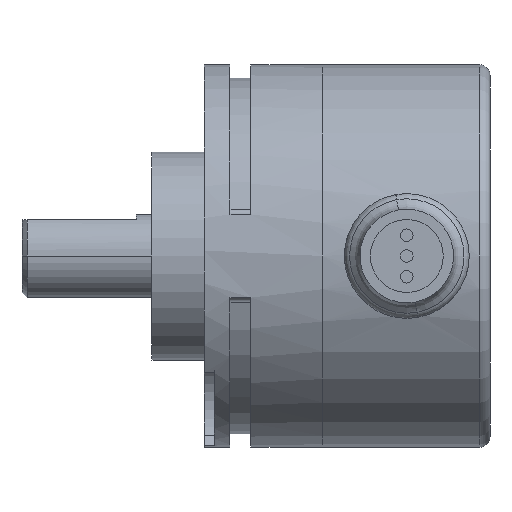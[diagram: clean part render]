
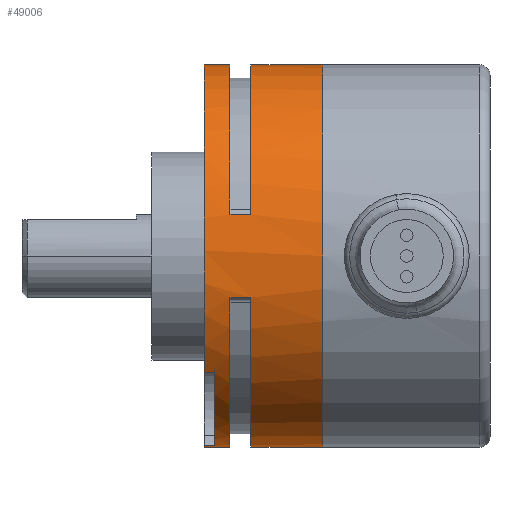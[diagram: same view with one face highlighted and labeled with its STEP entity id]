
A CAD part, front view. The second image highlights one B-rep face of the part: STEP entity #49006.
In plain terms, the highlighted cylindrical face has radius 18.4 mm (diameter 36.8 mm), a partial arc.
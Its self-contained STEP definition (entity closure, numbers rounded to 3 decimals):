
#2608 = CARTESIAN_POINT ( 'NONE',  ( 1.355, -2.838, -18.4 ) ) ;
#2611 = CARTESIAN_POINT ( 'NONE',  ( -7.545, -2.838, 18.4 ) ) ;
#2612 = DIRECTION ( 'NONE',  ( -1., 0., 0. ) ) ;
#2613 = VECTOR ( 'NONE', #2612, 1000. ) ;
#2614 = CARTESIAN_POINT ( 'NONE',  ( -15.045, -2.838, 18.4 ) ) ;
#2615 = LINE ( 'NONE', #2614, #2613 ) ;
#2616 = CARTESIAN_POINT ( 'NONE',  ( 1.355, -2.838, 18.4 ) ) ;
#2673 = CARTESIAN_POINT ( 'NONE',  ( -5.545, -2.838, -18.4 ) ) ;
#2674 = CARTESIAN_POINT ( 'NONE',  ( -7.545, -2.838, -18.4 ) ) ;
#2680 = CARTESIAN_POINT ( 'NONE',  ( -5.545, -2.838, 18.4 ) ) ;
#3988 = DIRECTION ( 'NONE',  ( -1., 0., 0. ) ) ;
#3989 = CARTESIAN_POINT ( 'NONE',  ( -15.045, -2.838, 18.4 ) ) ;
#3993 = VECTOR ( 'NONE', #3988, 1000. ) ;
#3995 = LINE ( 'NONE', #3989, #3993 ) ;
#17676 = CARTESIAN_POINT ( 'NONE',  ( -9.045, -17.408, -11.237 ) ) ;
#17677 = DIRECTION ( 'NONE',  ( -1., 0., 0. ) ) ;
#17678 = VECTOR ( 'NONE', #17677, 1000. ) ;
#17679 = CARTESIAN_POINT ( 'NONE',  ( -9.045, -17.408, -11.237 ) ) ;
#17680 = LINE ( 'NONE', #17679, #17678 ) ;
#17699 = DIRECTION ( 'NONE',  ( -1., 0., 0. ) ) ;
#17700 = VECTOR ( 'NONE', #17699, 1000. ) ;
#17701 = CARTESIAN_POINT ( 'NONE',  ( -9.045, -5.284, -18.237 ) ) ;
#17702 = LINE ( 'NONE', #17701, #17700 ) ;
#17751 = FACE_OUTER_BOUND ( 'NONE', #49009, .T. ) ;
#17781 = DIRECTION ( 'NONE',  ( 0., 0., 1. ) ) ;
#17782 = DIRECTION ( 'NONE',  ( -1., 0., 0. ) ) ;
#17783 = CARTESIAN_POINT ( 'NONE',  ( 1.355, -2.838, 0. ) ) ;
#17784 = AXIS2_PLACEMENT_3D ( 'NONE', #17783, #17782, #17781 ) ;
#17786 = DIRECTION ( 'NONE',  ( 0., 0., 1. ) ) ;
#17787 = DIRECTION ( 'NONE',  ( -1., 0., 0. ) ) ;
#17788 = AXIS2_PLACEMENT_3D ( 'NONE', #17791, #17787, #17786 ) ;
#17789 = CYLINDRICAL_SURFACE ( 'NONE', #17788, 18.4 ) ;
#17790 = CIRCLE ( 'NONE', #17784, 18.4 ) ;
#17791 = CARTESIAN_POINT ( 'NONE',  ( -15.045, -2.838, 0. ) ) ;
#17796 = CARTESIAN_POINT ( 'NONE',  ( -9.045, -2.838, 0. ) ) ;
#17805 = CARTESIAN_POINT ( 'NONE',  ( -10.045, -5.284, -18.237 ) ) ;
#17806 = DIRECTION ( 'NONE',  ( 0., 0., 1. ) ) ;
#17807 = DIRECTION ( 'NONE',  ( -1., 0., 0. ) ) ;
#17808 = CARTESIAN_POINT ( 'NONE',  ( -10.045, -2.838, 0. ) ) ;
#17809 = AXIS2_PLACEMENT_3D ( 'NONE', #17808, #17807, #17806 ) ;
#17810 = CIRCLE ( 'NONE', #17809, 18.4 ) ;
#17816 = CARTESIAN_POINT ( 'NONE',  ( -9.045, -5.284, -18.237 ) ) ;
#17817 = DIRECTION ( 'NONE',  ( 0., 0., 1. ) ) ;
#17818 = DIRECTION ( 'NONE',  ( -1., 0., 0. ) ) ;
#17819 = AXIS2_PLACEMENT_3D ( 'NONE', #17796, #17818, #17817 ) ;
#17820 = CIRCLE ( 'NONE', #17819, 18.4 ) ;
#18221 = CIRCLE ( 'NONE', #18282, 18.4 ) ;
#18222 = CARTESIAN_POINT ( 'NONE',  ( -10.045, -17.408, -11.237 ) ) ;
#18223 = DIRECTION ( 'NONE',  ( 0., 0., 1. ) ) ;
#18224 = DIRECTION ( 'NONE',  ( -1., 0., 0. ) ) ;
#18225 = AXIS2_PLACEMENT_3D ( 'NONE', #18233, #18224, #18223 ) ;
#18226 = CIRCLE ( 'NONE', #18225, 18.4 ) ;
#18233 = CARTESIAN_POINT ( 'NONE',  ( -10.045, -2.838, 0. ) ) ;
#18263 = DIRECTION ( 'NONE',  ( 0., 0., -1. ) ) ;
#18264 = DIRECTION ( 'NONE',  ( 1., 0., 0. ) ) ;
#18265 = CARTESIAN_POINT ( 'NONE',  ( -5.545, -2.838, 0. ) ) ;
#18266 = AXIS2_PLACEMENT_3D ( 'NONE', #18265, #18264, #18263 ) ;
#18267 = CIRCLE ( 'NONE', #18266, 18.4 ) ;
#18269 = CARTESIAN_POINT ( 'NONE',  ( -5.545, -20.798, -4. ) ) ;
#18274 = DIRECTION ( 'NONE',  ( -1., 0., 0. ) ) ;
#18275 = VECTOR ( 'NONE', #18274, 1000. ) ;
#18276 = CARTESIAN_POINT ( 'NONE',  ( -5.545, -20.798, -4. ) ) ;
#18277 = LINE ( 'NONE', #18276, #18275 ) ;
#18278 = CARTESIAN_POINT ( 'NONE',  ( -7.545, -20.798, -4. ) ) ;
#18279 = DIRECTION ( 'NONE',  ( 0., 0., -1. ) ) ;
#18280 = DIRECTION ( 'NONE',  ( 1., 0., 0. ) ) ;
#18281 = CARTESIAN_POINT ( 'NONE',  ( -7.545, -2.838, 0. ) ) ;
#18282 = AXIS2_PLACEMENT_3D ( 'NONE', #18281, #18280, #18279 ) ;
#26216 = CARTESIAN_POINT ( 'NONE',  ( -15.045, -2.838, -18.4 ) ) ;
#26217 = LINE ( 'NONE', #26216, #26271 ) ;
#26253 = CARTESIAN_POINT ( 'NONE',  ( -10.045, -2.838, 18.4 ) ) ;
#26260 = DIRECTION ( 'NONE',  ( -1., 0., 0. ) ) ;
#26261 = VECTOR ( 'NONE', #26260, 1000. ) ;
#26262 = CARTESIAN_POINT ( 'NONE',  ( -15.045, -2.838, -18.4 ) ) ;
#26263 = LINE ( 'NONE', #26262, #26261 ) ;
#26269 = CARTESIAN_POINT ( 'NONE',  ( -10.045, -2.838, -18.4 ) ) ;
#26270 = DIRECTION ( 'NONE',  ( -1., 0., 0. ) ) ;
#26271 = VECTOR ( 'NONE', #26270, 1000. ) ;
#31290 = VERTEX_POINT ( 'NONE', #2616 ) ;
#31292 = EDGE_CURVE ( 'NONE', #31293, #55144, #2615, .T. ) ;
#31293 = VERTEX_POINT ( 'NONE', #2611 ) ;
#31298 = VERTEX_POINT ( 'NONE', #2608 ) ;
#31324 = VERTEX_POINT ( 'NONE', #2680 ) ;
#31330 = VERTEX_POINT ( 'NONE', #2674 ) ;
#31331 = VERTEX_POINT ( 'NONE', #2673 ) ;
#31347 = EDGE_CURVE ( 'NONE', #31290, #31324, #3995, .T. ) ;
#48799 = EDGE_CURVE ( 'NONE', #31324, #48800, #54522, .T. ) ;
#48800 = VERTEX_POINT ( 'NONE', #54514 ) ;
#48801 = ORIENTED_EDGE ( 'NONE', *, *, #48802, .T. ) ;
#48802 = EDGE_CURVE ( 'NONE', #48800, #48805, #54540, .T. ) ;
#48805 = VERTEX_POINT ( 'NONE', #54535 ) ;
#48808 = ORIENTED_EDGE ( 'NONE', *, *, #48811, .F. ) ;
#48811 = EDGE_CURVE ( 'NONE', #31293, #48805, #54533, .T. ) ;
#48814 = ORIENTED_EDGE ( 'NONE', *, *, #31292, .T. ) ;
#48815 = ORIENTED_EDGE ( 'NONE', *, *, #49151, .F. ) ;
#48907 = ORIENTED_EDGE ( 'NONE', *, *, #48956, .T. ) ;
#48932 = ORIENTED_EDGE ( 'NONE', *, *, #48934, .F. ) ;
#48934 = EDGE_CURVE ( 'NONE', #48936, #49152, #17680, .T. ) ;
#48936 = VERTEX_POINT ( 'NONE', #17676 ) ;
#48956 = EDGE_CURVE ( 'NONE', #49023, #49037, #17702, .T. ) ;
#48957 = ORIENTED_EDGE ( 'NONE', *, *, #49036, .F. ) ;
#48959 = ORIENTED_EDGE ( 'NONE', *, *, #55125, .F. ) ;
#49006 = ADVANCED_FACE ( 'NONE', ( #17751 ), #17789, .T. ) ;
#49009 = EDGE_LOOP ( 'NONE', ( #49011, #49012, #49014, #49015, #48801, #48808, #48814, #48815, #48932, #49019, #48907, #48957, #48959, #49153, #49156, #49161 ) ) ;
#49011 = ORIENTED_EDGE ( 'NONE', *, *, #55134, .F. ) ;
#49012 = ORIENTED_EDGE ( 'NONE', *, *, #49013, .T. ) ;
#49013 = EDGE_CURVE ( 'NONE', #31298, #31290, #17790, .T. ) ;
#49014 = ORIENTED_EDGE ( 'NONE', *, *, #31347, .T. ) ;
#49015 = ORIENTED_EDGE ( 'NONE', *, *, #48799, .T. ) ;
#49019 = ORIENTED_EDGE ( 'NONE', *, *, #49021, .F. ) ;
#49021 = EDGE_CURVE ( 'NONE', #49023, #48936, #17820, .T. ) ;
#49023 = VERTEX_POINT ( 'NONE', #17816 ) ;
#49036 = EDGE_CURVE ( 'NONE', #55127, #49037, #17810, .T. ) ;
#49037 = VERTEX_POINT ( 'NONE', #17805 ) ;
#49151 = EDGE_CURVE ( 'NONE', #49152, #55144, #18226, .T. ) ;
#49152 = VERTEX_POINT ( 'NONE', #18222 ) ;
#49153 = ORIENTED_EDGE ( 'NONE', *, *, #49154, .F. ) ;
#49154 = EDGE_CURVE ( 'NONE', #49155, #31330, #18221, .T. ) ;
#49155 = VERTEX_POINT ( 'NONE', #18278 ) ;
#49156 = ORIENTED_EDGE ( 'NONE', *, *, #49158, .F. ) ;
#49158 = EDGE_CURVE ( 'NONE', #49160, #49155, #18277, .T. ) ;
#49160 = VERTEX_POINT ( 'NONE', #18269 ) ;
#49161 = ORIENTED_EDGE ( 'NONE', *, *, #49162, .T. ) ;
#49162 = EDGE_CURVE ( 'NONE', #49160, #31331, #18267, .T. ) ;
#54514 = CARTESIAN_POINT ( 'NONE',  ( -5.545, -20.798, 4. ) ) ;
#54515 = DIRECTION ( 'NONE',  ( 0., 0., -1. ) ) ;
#54516 = DIRECTION ( 'NONE',  ( 1., 0., 0. ) ) ;
#54520 = CARTESIAN_POINT ( 'NONE',  ( -5.545, -2.838, 0. ) ) ;
#54521 = AXIS2_PLACEMENT_3D ( 'NONE', #54520, #54516, #54515 ) ;
#54522 = CIRCLE ( 'NONE', #54521, 18.4 ) ;
#54527 = DIRECTION ( 'NONE',  ( 0., 0., -1. ) ) ;
#54529 = DIRECTION ( 'NONE',  ( 1., 0., 0. ) ) ;
#54530 = CARTESIAN_POINT ( 'NONE',  ( -7.545, -2.838, 0. ) ) ;
#54531 = AXIS2_PLACEMENT_3D ( 'NONE', #54530, #54529, #54527 ) ;
#54533 = CIRCLE ( 'NONE', #54531, 18.4 ) ;
#54535 = CARTESIAN_POINT ( 'NONE',  ( -7.545, -20.798, 4. ) ) ;
#54536 = DIRECTION ( 'NONE',  ( -1., 0., 0. ) ) ;
#54537 = VECTOR ( 'NONE', #54536, 1000. ) ;
#54538 = CARTESIAN_POINT ( 'NONE',  ( -5.545, -20.798, 4. ) ) ;
#54540 = LINE ( 'NONE', #54538, #54537 ) ;
#55125 = EDGE_CURVE ( 'NONE', #31330, #55127, #26217, .T. ) ;
#55127 = VERTEX_POINT ( 'NONE', #26269 ) ;
#55134 = EDGE_CURVE ( 'NONE', #31298, #31331, #26263, .T. ) ;
#55144 = VERTEX_POINT ( 'NONE', #26253 ) ;
